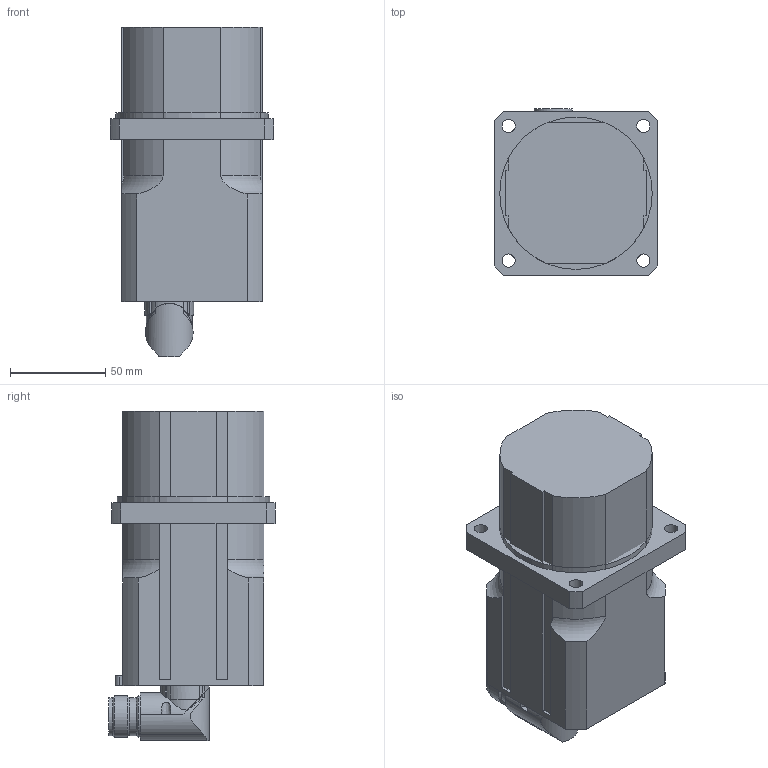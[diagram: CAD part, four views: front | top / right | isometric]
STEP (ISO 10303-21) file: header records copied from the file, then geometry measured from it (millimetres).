
FILE_DESCRIPTION(/* description */ ('Alibre Inc.'),/* implementation_level */ '2;1');
FILE_NAME(/* name */ 'export0',/* time_stamp */ '2011-03-24T09:36:19+01:00',/* author */ (''),/* organization */ (''),/* preprocessor_version */ 'ST-DEVELOPER v12',/* originating_system */ 'Alibre',/* authorisation */ '');
FILE_SCHEMA (('ALIBRE_SCHEMA','CONFIG_CONTROL_DESIGN'));
Length unit declared in the file: millimetre
Products named in the file (5): ID_1; ID_2
Bounding box: 86 x 87.51 x 173 mm (x, y, z)
Volume: 828696.1 mm3; surface area: 80691.2 mm2
Topology: 4 solids, 4 shells, 147 faces, 386 edges, 256 vertices
Faces by surface type: cylinder 62, plane 57, bspline 20, cone 4, torus 4
Full cylindrical faces by diameter (mm): 2.7 x4, 14 x1, 20 x3, 22 x2, 62 x1, 80 x1
Entity records: 15461 total; most frequent: CARTESIAN_POINT 4436, DIRECTION 1644, ORIENTED_EDGE 1636, EDGE_CURVE 818, AXIS2_PLACEMENT_3D 630, VERTEX_POINT 580, VECTOR 502, LINE 468
